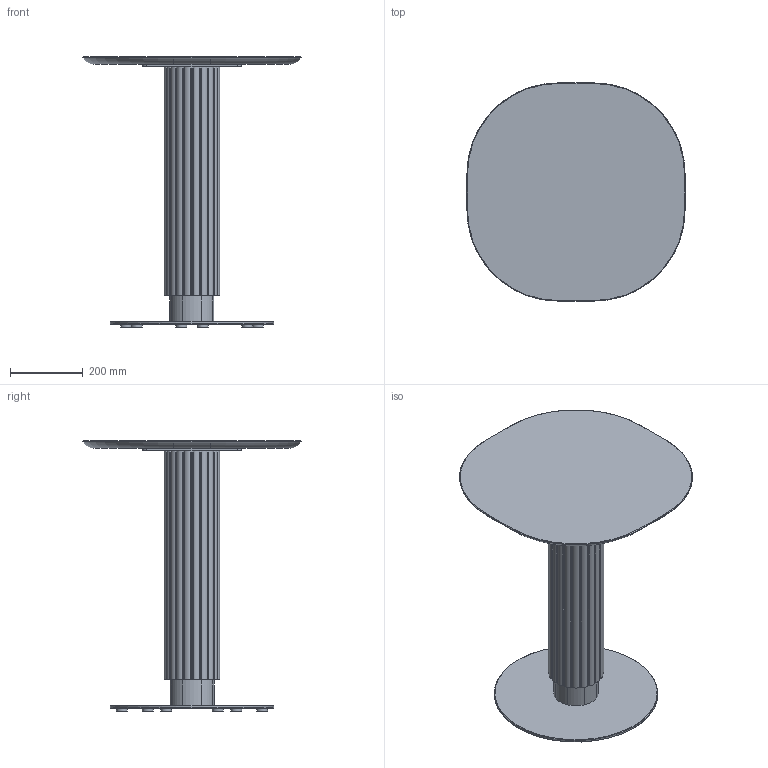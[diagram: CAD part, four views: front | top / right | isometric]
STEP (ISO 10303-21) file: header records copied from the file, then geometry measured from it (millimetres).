
FILE_DESCRIPTION( ('This file contains a STEP AP42 implementation' ,'as created by ZW3D STEP Interface translator.') ,'2;1' );
FILE_NAME( 'Godron - B_Rond - F2 - M3 - 600 x 600 x 750.stp' ,'24 912.12 237', (''), ('ZWCAD Software Co.'), 'Version 1.0', 'ZW3D to STEP translator', '' );
FILE_SCHEMA(('AUTOMOTIVE_DESIGN { 1 0 10303 214 1 1 1 1 }'));
Length unit declared in the file: millimetre
Products named in the file (15): 0; PIED BISTROT PARAMETRIQUE_; SOCLE ACIER C Ø450 V.02_; SCL-D450-02_; PLA-R30A-01_; PLA-R30A-01; CROIX ACIER 370 V.02_; CRX-X370-02_; COLONNE ACIER Ø48.5 V.02_; TUB-D048-02_; PLA-R48A-01_; Colonne GODRON H700_; WUERTH 0276063020 Euro-screw 6.3x2 Verzinkt_; PLATEAU BISTROT PARAMETRIQUE_; insert_m6_13_
Assembly tree (25 placements, depth 3):
  0
  PIED BISTROT PARAMETRIQUE_
    SOCLE ACIER C Ø450 V.02_
      SCL-D450-02_
      PLA-R30A-01_
      PLA-R30A-01  x5
    CROIX ACIER 370 V.02_
      CRX-X370-02_
    COLONNE ACIER Ø48.5 V.02_
      TUB-D048-02_
      PLA-R48A-01_  x2
    Colonne GODRON H700_
    WUERTH 0276063020 Euro-screw 6.3x2 Verzinkt_
    PLATEAU BISTROT PARAMETRIQUE_
      insert_m6_13_  x8
Bounding box: 600 x 600 x 744 mm (x, y, z)
Volume: 18167232.2 mm3; surface area: 2377584.6 mm2
Topology: 29 solids, 29 shells, 656 faces, 1625 edges, 1042 vertices
Faces by surface type: plane 287, cylinder 197, bspline 124, cone 43, torus 5
Full cylindrical faces by diameter (mm): 4.88 x1, 6 x8, 6.3 x1, 8 x47, 12 x2, 14 x2, 30 x6, 44.5 x3, 48.5 x1, 450 x1
Entity records: 16285 total; most frequent: CARTESIAN_POINT 4113, DIRECTION 2240, ORIENTED_EDGE 2240, EDGE_CURVE 1120, AXIS2_PLACEMENT_3D 801, VERTEX_POINT 728, VECTOR 638, LINE 638
